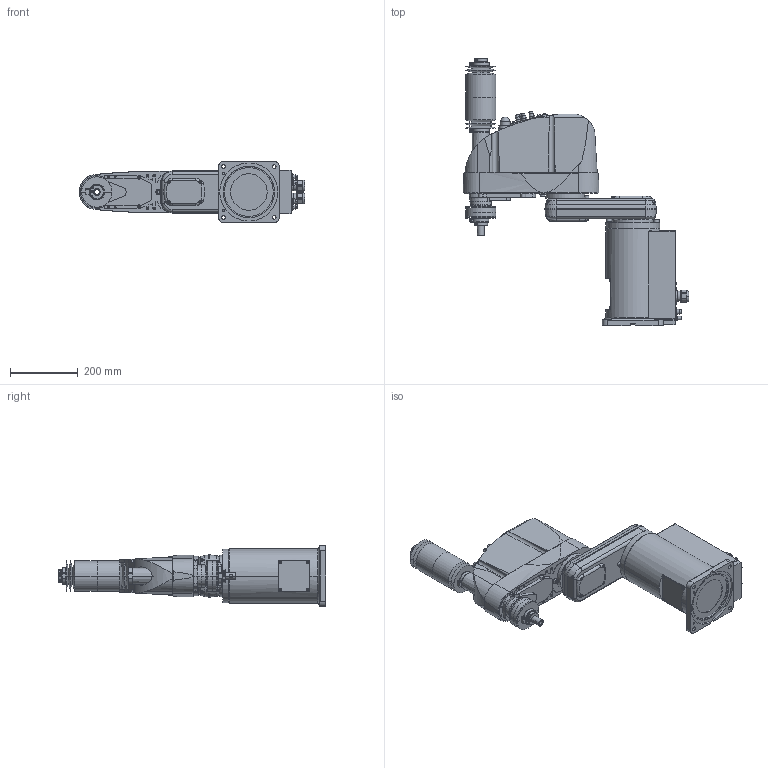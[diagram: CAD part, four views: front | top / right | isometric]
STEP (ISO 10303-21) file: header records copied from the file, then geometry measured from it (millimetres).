
FILE_DESCRIPTION( ( '' ), '1' );
FILE_NAME( '//expscmdclustefs.cadenas.external/client_exchange/iodir/jobs/output/wkb51513372_no0/STEP/G6_451C_2_03.stp', '2012-11-22T16:00:57', ( '' ), ( '' ), ' ', ' ', ' ' );
FILE_SCHEMA( ( 'CONFIG_CONTROL_DESIGN' ) );
Length unit declared in the file: millimetre
Products named in the file (8): 1; 2; 3; 4; 5; 6; 7; 8
Bounding box: 667.5 x 792 x 180 mm (x, y, z)
Volume: 20454808.8 mm3; surface area: 1050270.9 mm2
Topology: 8 solids, 8 shells, 1767 faces, 4309 edges, 2762 vertices
Faces by surface type: plane 892, cylinder 583, cone 224, torus 67, sphere 1
Entity records: 55034 total; most frequent: CARTESIAN_POINT 12067, DIRECTION 9244, ORIENTED_EDGE 8566, EDGE_CURVE 4283, AXIS2_PLACEMENT_3D 3367, VERTEX_POINT 2762, LINE 2510, VECTOR 2510
